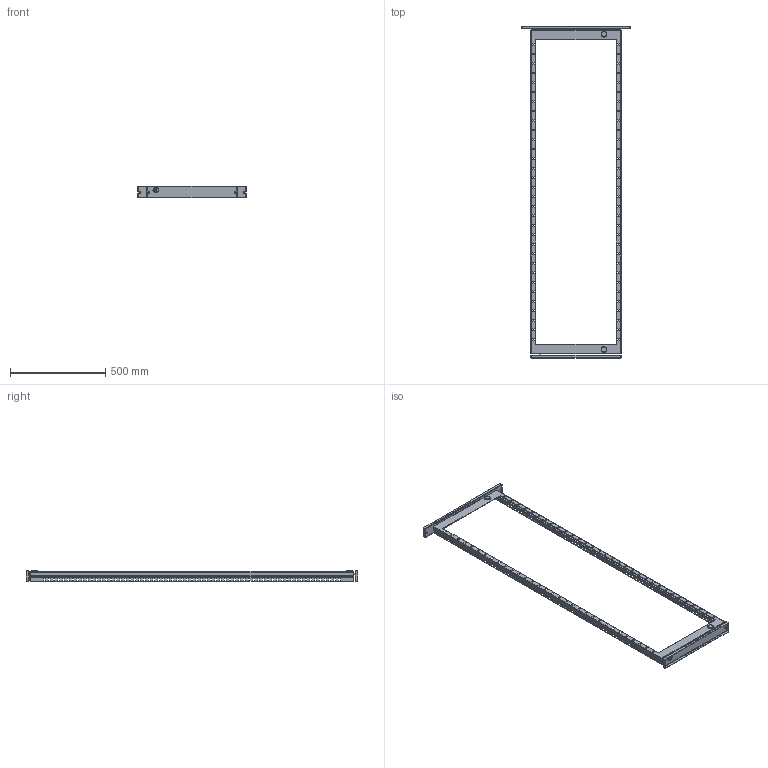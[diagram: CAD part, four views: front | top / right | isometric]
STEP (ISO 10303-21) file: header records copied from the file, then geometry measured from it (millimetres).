
FILE_DESCRIPTION (( 'STEP AP203' ), '1' );
FILE_NAME ('MC 180.60 R Ðàìà ìîäóëüíàÿ ïîâîðîòíàÿ.STEP', '2013-01-10T15:11:59', ( 'System' ), ( '' ), 'SwSTEP 2.0', 'SolidWorks 2012', '' );
FILE_SCHEMA (( 'CONFIG_CONTROL_DESIGN' ));
Length unit declared in the file: millimetre
Products named in the file (4): MC 180.60 R Ðàìà ìîäóëüíàÿ_MC 180.60 R; MC 60 R 00.001 Áàëêà íèæíÿÿ_MC 60 R; MC 60 R 00.01 Áàëêà âåðõíÿÿ_MC 60 R; MC 180.60 R Ðàìà ìîäóëüíàÿ ïîâîðîòíàÿ
Assembly tree (3 placements, depth 2):
  MC 180.60 R Ðàìà ìîäóëüíàÿ ïîâîðîòíàÿ
    MC 180.60 R Ðàìà ìîäóëüíàÿ_MC 180.60 R
    MC 60 R 00.01 Áàëêà âåðõíÿÿ_MC 60 R
    MC 60 R 00.001 Áàëêà íèæíÿÿ_MC 60 R
Bounding box: 571.5 x 1744.7 x 60 mm (x, y, z)
Volume: 931689.7 mm3; surface area: 938867.9 mm2
Topology: 3 solids, 3 shells, 960 faces, 2742 edges, 1764 vertices
Faces by surface type: plane 811, cylinder 97, sphere 32, cone 12, torus 8
Entity records: 31642 total; most frequent: CARTESIAN_POINT 5472, ORIENTED_EDGE 5420, DIRECTION 4846, EDGE_CURVE 2710, VECTOR 2498, LINE 2498, VERTEX_POINT 1764, EDGE_LOOP 1362
